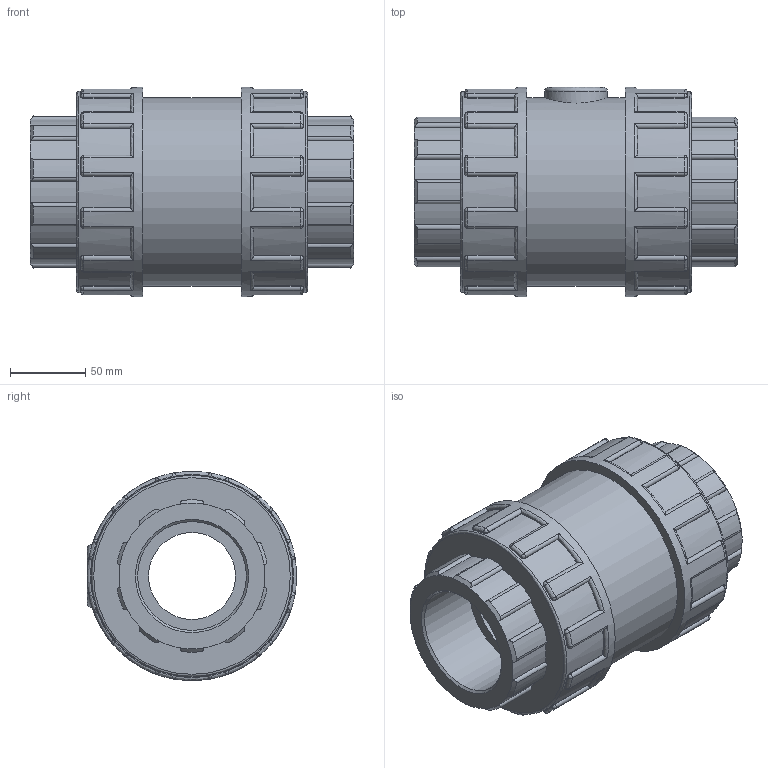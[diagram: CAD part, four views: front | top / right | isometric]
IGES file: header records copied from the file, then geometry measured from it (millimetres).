
Global section: file name: 11081025.ipt; native system: Autodesk Inventor 2015; preprocessor: unknown; author: KIM; date: 20171207.170058; units: millimetre
Bounding box: 215 x 139 x 139 mm (x, y, z)
Volume: 1872112.6 mm3; surface area: 159585.3 mm2
Topology: 1 solids, 1 shells, 411 faces, 1033 edges, 630 vertices
Faces by surface type: cylinder 182, plane 105, revolution 56, sphere 48, cone 20
Full cylindrical faces by diameter (mm): 41.7 x1, 125.1 x1, 133.44 x2, 139 x2
